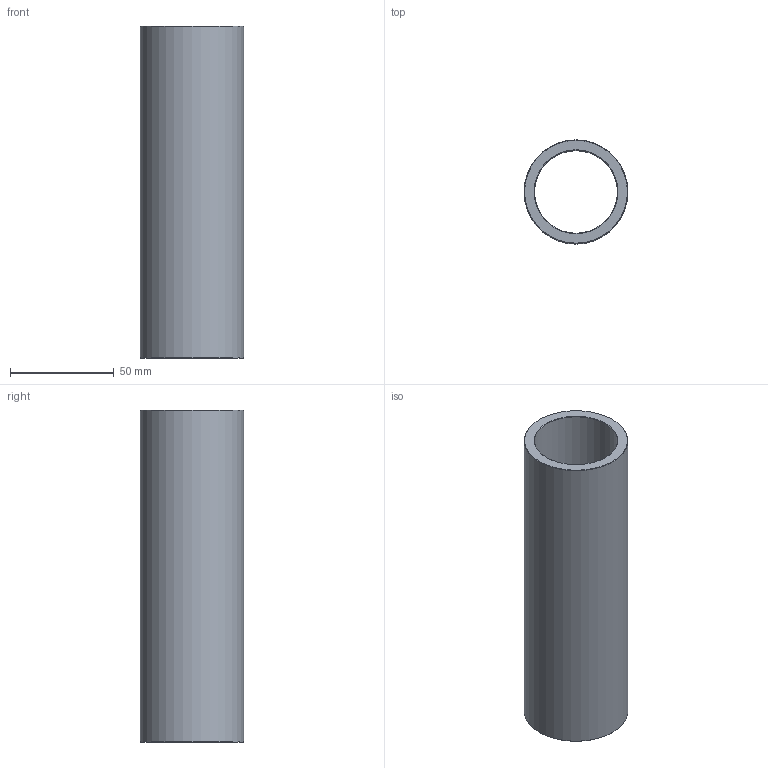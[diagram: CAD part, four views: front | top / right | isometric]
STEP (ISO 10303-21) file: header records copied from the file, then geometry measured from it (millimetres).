
FILE_DESCRIPTION(('STEP AP203'),'1');
FILE_NAME('C:/Users/Rodrigo/Desktop/GA5.040.160-1.step','2016-11-07T18:40:51',(' '),(' '),'Spatial InterOp 3D',' ',' ');
FILE_SCHEMA(('CONFIG_CONTROL_DESIGN'));
Length unit declared in the file: millimetre
Products named in the file (1): 1
Bounding box: 50 x 50 x 160 mm (x, y, z)
Volume: 113086 mm3; surface area: 46586.4 mm2
Topology: 1 solids, 1 shells, 8 faces, 14 edges, 8 vertices
Faces by surface type: cone 4, cylinder 2, plane 2
Full cylindrical faces by diameter (mm): 40 x1, 50 x1
Entity records: 212 total; most frequent: DIRECTION 34, CARTESIAN_POINT 25, AXIS2_PLACEMENT_3D 17, EDGE_LOOP 16, ORIENTED_EDGE 16, FACE_OUTER_BOUND 10, ADVANCED_FACE 8, EDGE_CURVE 8
